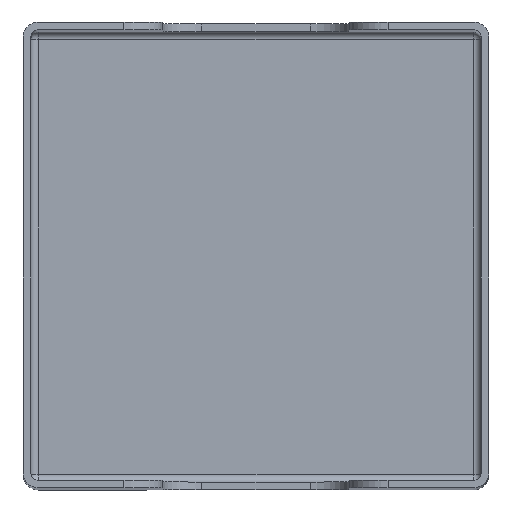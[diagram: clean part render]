
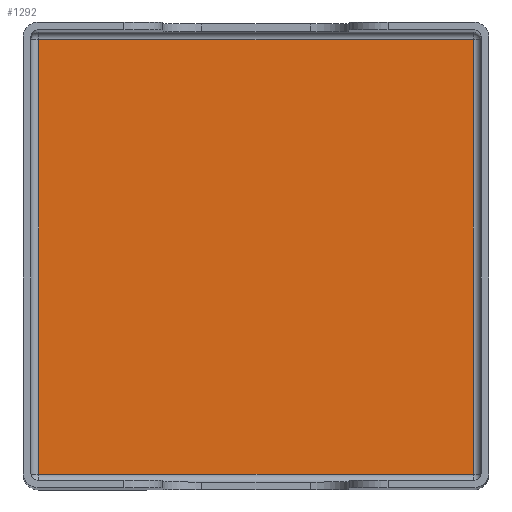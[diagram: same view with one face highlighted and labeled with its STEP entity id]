
A CAD part, top view. The second image highlights one B-rep face of the part: STEP entity #1292.
In plain terms, the highlighted planar face has unit normal (0, 0, 1).
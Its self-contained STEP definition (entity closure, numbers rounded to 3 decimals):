
#43 = CARTESIAN_POINT ( 'NONE',  ( 29., -28., 1. ) ) ;
#63 = LINE ( 'NONE', #1619, #1436 ) ;
#67 = EDGE_CURVE ( 'NONE', #1381, #2027, #1867, .T. ) ;
#84 = VECTOR ( 'NONE', #122, 1000. ) ;
#94 = CARTESIAN_POINT ( 'NONE',  ( 28., -28., 1. ) ) ;
#122 = DIRECTION ( 'NONE',  ( 0., -1., 0. ) ) ;
#140 = FACE_OUTER_BOUND ( 'NONE', #506, .T. ) ;
#155 = CARTESIAN_POINT ( 'NONE',  ( -28., -29., 1. ) ) ;
#171 = DIRECTION ( 'NONE',  ( 1., 0., 0. ) ) ;
#189 = DIRECTION ( 'NONE',  ( 0., 1., 0. ) ) ;
#192 = EDGE_CURVE ( 'NONE', #789, #357, #63, .T. ) ;
#224 = EDGE_CURVE ( 'NONE', #357, #1381, #522, .T. ) ;
#357 = VERTEX_POINT ( 'NONE', #1352 ) ;
#506 = EDGE_LOOP ( 'NONE', ( #1843, #1999, #927, #1938 ) ) ;
#522 = LINE ( 'NONE', #1145, #1171 ) ;
#697 = LINE ( 'NONE', #43, #1144 ) ;
#789 = VERTEX_POINT ( 'NONE', #94 ) ;
#927 = ORIENTED_EDGE ( 'NONE', *, *, #1476, .T. ) ;
#1144 = VECTOR ( 'NONE', #1301, 1000. ) ;
#1145 = CARTESIAN_POINT ( 'NONE',  ( -29., 28., 1. ) ) ;
#1171 = VECTOR ( 'NONE', #1945, 1000. ) ;
#1183 = CARTESIAN_POINT ( 'NONE',  ( 0., 0., 1. ) ) ;
#1292 = ADVANCED_FACE ( 'NONE', ( #140 ), #1336, .T. ) ;
#1301 = DIRECTION ( 'NONE',  ( 1., 0., 0. ) ) ;
#1336 = PLANE ( 'NONE',  #1498 ) ;
#1352 = CARTESIAN_POINT ( 'NONE',  ( 28., 28., 1. ) ) ;
#1381 = VERTEX_POINT ( 'NONE', #1723 ) ;
#1436 = VECTOR ( 'NONE', #189, 1000. ) ;
#1476 = EDGE_CURVE ( 'NONE', #2027, #789, #697, .T. ) ;
#1498 = AXIS2_PLACEMENT_3D ( 'NONE', #1183, #1814, #171 ) ;
#1619 = CARTESIAN_POINT ( 'NONE',  ( 28., 29., 1. ) ) ;
#1723 = CARTESIAN_POINT ( 'NONE',  ( -28., 28., 1. ) ) ;
#1814 = DIRECTION ( 'NONE',  ( 0., 0., 1. ) ) ;
#1843 = ORIENTED_EDGE ( 'NONE', *, *, #224, .T. ) ;
#1857 = CARTESIAN_POINT ( 'NONE',  ( -28., -28., 1. ) ) ;
#1867 = LINE ( 'NONE', #155, #84 ) ;
#1938 = ORIENTED_EDGE ( 'NONE', *, *, #192, .T. ) ;
#1945 = DIRECTION ( 'NONE',  ( -1., 0., 0. ) ) ;
#1999 = ORIENTED_EDGE ( 'NONE', *, *, #67, .T. ) ;
#2027 = VERTEX_POINT ( 'NONE', #1857 ) ;
